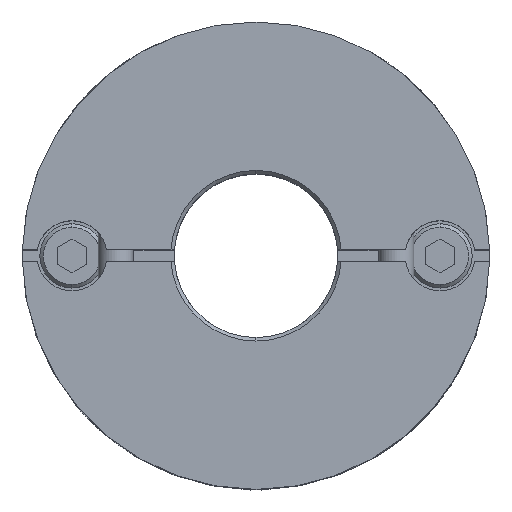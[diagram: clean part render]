
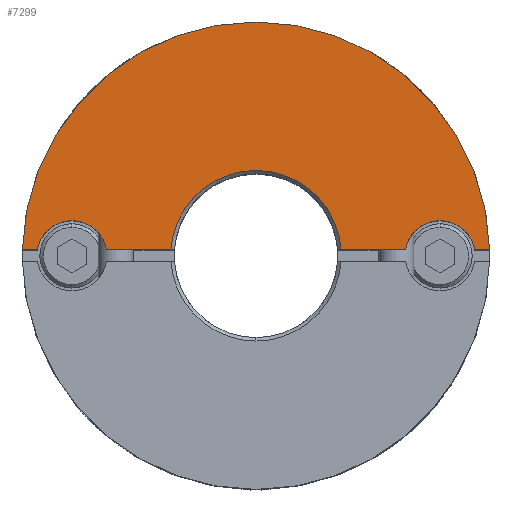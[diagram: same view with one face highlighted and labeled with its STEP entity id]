
A CAD part, top view. The second image highlights one B-rep face of the part: STEP entity #7299.
In plain terms, the highlighted planar face has unit normal (0, 0, 1).
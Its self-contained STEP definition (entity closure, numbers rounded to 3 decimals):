
#605=CARTESIAN_POINT('',(0.,20.0,15.6));
#606=VERTEX_POINT('',#605);
#690=CARTESIAN_POINT('',(-19.994,0.5,15.6));
#691=VERTEX_POINT('',#690);
#698=CARTESIAN_POINT('',(0.,0.0,15.6));
#699=DIRECTION('',(0.0,0.0,-1.0));
#700=DIRECTION('',(0.0,1.0,0.0));
#701=AXIS2_PLACEMENT_3D('',#698,#699,#700);
#702=CIRCLE('',#701,20.0);
#703=EDGE_CURVE('',#691,#606,#702,.T.);
#993=CARTESIAN_POINT('',(0.,7.3,15.6));
#994=VERTEX_POINT('',#993);
#1001=CARTESIAN_POINT('',(-7.283,0.5,15.6));
#1002=VERTEX_POINT('',#1001);
#1003=CARTESIAN_POINT('',(0.,0.,15.6));
#1004=DIRECTION('',(0.0,0.0,1.0));
#1005=DIRECTION('',(0.0,-1.0,0.0));
#1006=AXIS2_PLACEMENT_3D('',#1003,#1004,#1005);
#1007=CIRCLE('',#1006,7.3);
#1008=EDGE_CURVE('',#994,#1002,#1007,.T.);
#1309=CARTESIAN_POINT('',(-15.75,3.,15.6));
#1310=VERTEX_POINT('',#1309);
#1319=CARTESIAN_POINT('',(-18.708,0.5,15.6));
#1320=VERTEX_POINT('',#1319);
#1321=CARTESIAN_POINT('',(-15.75,0.,15.6));
#1322=DIRECTION('',(0.0,0.0,-1.0));
#1323=DIRECTION('',(0.0,1.0,0.0));
#1324=AXIS2_PLACEMENT_3D('',#1321,#1322,#1323);
#1325=CIRCLE('',#1324,3.0);
#1326=EDGE_CURVE('',#1320,#1310,#1325,.T.);
#1579=CARTESIAN_POINT('',(15.75,3.,15.6));
#1580=VERTEX_POINT('',#1579);
#1589=CARTESIAN_POINT('',(12.792,0.5,15.6));
#1590=VERTEX_POINT('',#1589);
#1591=CARTESIAN_POINT('',(15.75,0.,15.6));
#1592=DIRECTION('',(0.0,0.0,-1.0));
#1593=DIRECTION('',(0.0,1.0,0.0));
#1594=AXIS2_PLACEMENT_3D('',#1591,#1592,#1593);
#1595=CIRCLE('',#1594,3.0);
#1596=EDGE_CURVE('',#1590,#1580,#1595,.T.);
#6010=CARTESIAN_POINT('',(18.708,0.5,15.6));
#6011=VERTEX_POINT('',#6010);
#6018=CARTESIAN_POINT('',(15.75,0.,15.6));
#6019=DIRECTION('',(0.0,0.0,-1.0));
#6020=DIRECTION('',(0.0,1.0,0.0));
#6021=AXIS2_PLACEMENT_3D('',#6018,#6019,#6020);
#6022=CIRCLE('',#6021,3.0);
#6023=EDGE_CURVE('',#1580,#6011,#6022,.T.);
#6462=CARTESIAN_POINT('',(-12.792,0.5,15.6));
#6463=VERTEX_POINT('',#6462);
#6470=CARTESIAN_POINT('',(-15.75,0.,15.6));
#6471=DIRECTION('',(0.0,0.0,-1.0));
#6472=DIRECTION('',(0.0,1.0,0.0));
#6473=AXIS2_PLACEMENT_3D('',#6470,#6471,#6472);
#6474=CIRCLE('',#6473,3.0);
#6475=EDGE_CURVE('',#1310,#6463,#6474,.T.);
#6568=CARTESIAN_POINT('',(-12.792,0.5,15.6));
#6569=DIRECTION('',(1.0,0.0,0.0));
#6570=VECTOR('',#6569,5.509);
#6571=LINE('',#6568,#6570);
#6572=EDGE_CURVE('',#6463,#1002,#6571,.T.);
#6635=CARTESIAN_POINT('',(7.283,0.5,15.6));
#6636=VERTEX_POINT('',#6635);
#6637=CARTESIAN_POINT('',(7.283,0.5,15.6));
#6638=DIRECTION('',(1.0,0.0,0.0));
#6639=VECTOR('',#6638,5.509);
#6640=LINE('',#6637,#6639);
#6641=EDGE_CURVE('',#6636,#1590,#6640,.T.);
#7202=CARTESIAN_POINT('',(-19.994,0.5,15.6));
#7203=DIRECTION('',(1.0,0.0,0.0));
#7204=VECTOR('',#7203,1.286);
#7205=LINE('',#7202,#7204);
#7206=EDGE_CURVE('',#691,#1320,#7205,.T.);
#7261=CARTESIAN_POINT('',(0.,1.818,15.6));
#7262=DIRECTION('',(0.0,0.0,1.0));
#7263=DIRECTION('',(0.0,1.0,0.0));
#7264=AXIS2_PLACEMENT_3D('',#7261,#7262,#7263);
#7265=PLANE('',#7264);
#7266=ORIENTED_EDGE('',*,*,#1326,.T.);
#7267=ORIENTED_EDGE('',*,*,#6475,.T.);
#7268=ORIENTED_EDGE('',*,*,#6572,.T.);
#7269=ORIENTED_EDGE('',*,*,#1008,.F.);
#7270=CARTESIAN_POINT('',(0.,0.,15.6));
#7271=DIRECTION('',(0.0,0.0,1.0));
#7272=DIRECTION('',(0.0,-1.0,0.0));
#7273=AXIS2_PLACEMENT_3D('',#7270,#7271,#7272);
#7274=CIRCLE('',#7273,7.3);
#7275=EDGE_CURVE('',#6636,#994,#7274,.T.);
#7276=ORIENTED_EDGE('',*,*,#7275,.F.);
#7277=ORIENTED_EDGE('',*,*,#6641,.T.);
#7278=ORIENTED_EDGE('',*,*,#1596,.T.);
#7279=ORIENTED_EDGE('',*,*,#6023,.T.);
#7280=CARTESIAN_POINT('',(19.994,0.5,15.6));
#7281=VERTEX_POINT('',#7280);
#7282=CARTESIAN_POINT('',(18.708,0.5,15.6));
#7283=DIRECTION('',(1.0,0.0,0.0));
#7284=VECTOR('',#7283,1.286);
#7285=LINE('',#7282,#7284);
#7286=EDGE_CURVE('',#6011,#7281,#7285,.T.);
#7287=ORIENTED_EDGE('',*,*,#7286,.T.);
#7288=CARTESIAN_POINT('',(0.,0.0,15.6));
#7289=DIRECTION('',(0.0,0.0,-1.0));
#7290=DIRECTION('',(0.0,1.0,0.0));
#7291=AXIS2_PLACEMENT_3D('',#7288,#7289,#7290);
#7292=CIRCLE('',#7291,20.0);
#7293=EDGE_CURVE('',#606,#7281,#7292,.T.);
#7294=ORIENTED_EDGE('',*,*,#7293,.F.);
#7295=ORIENTED_EDGE('',*,*,#703,.F.);
#7296=ORIENTED_EDGE('',*,*,#7206,.T.);
#7297=EDGE_LOOP('',(#7266,#7267,#7268,#7269,#7276,#7277,#7278,#7279,#7287,#7294,#7295,#7296));
#7298=FACE_OUTER_BOUND('',#7297,.T.);
#7299=ADVANCED_FACE('',(#7298),#7265,.T.);
